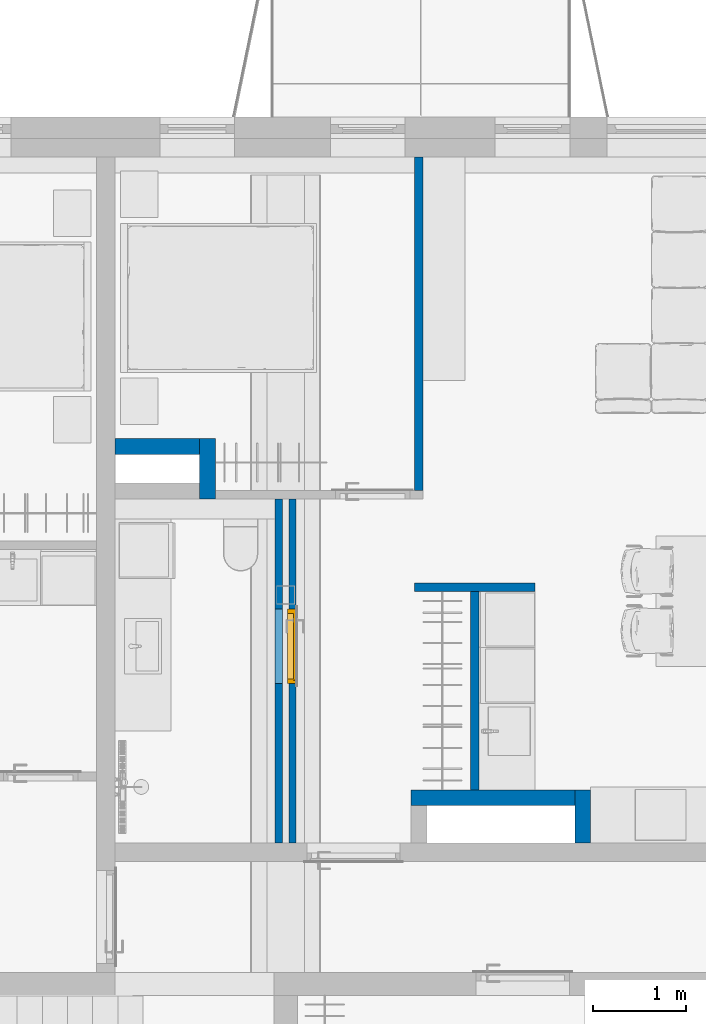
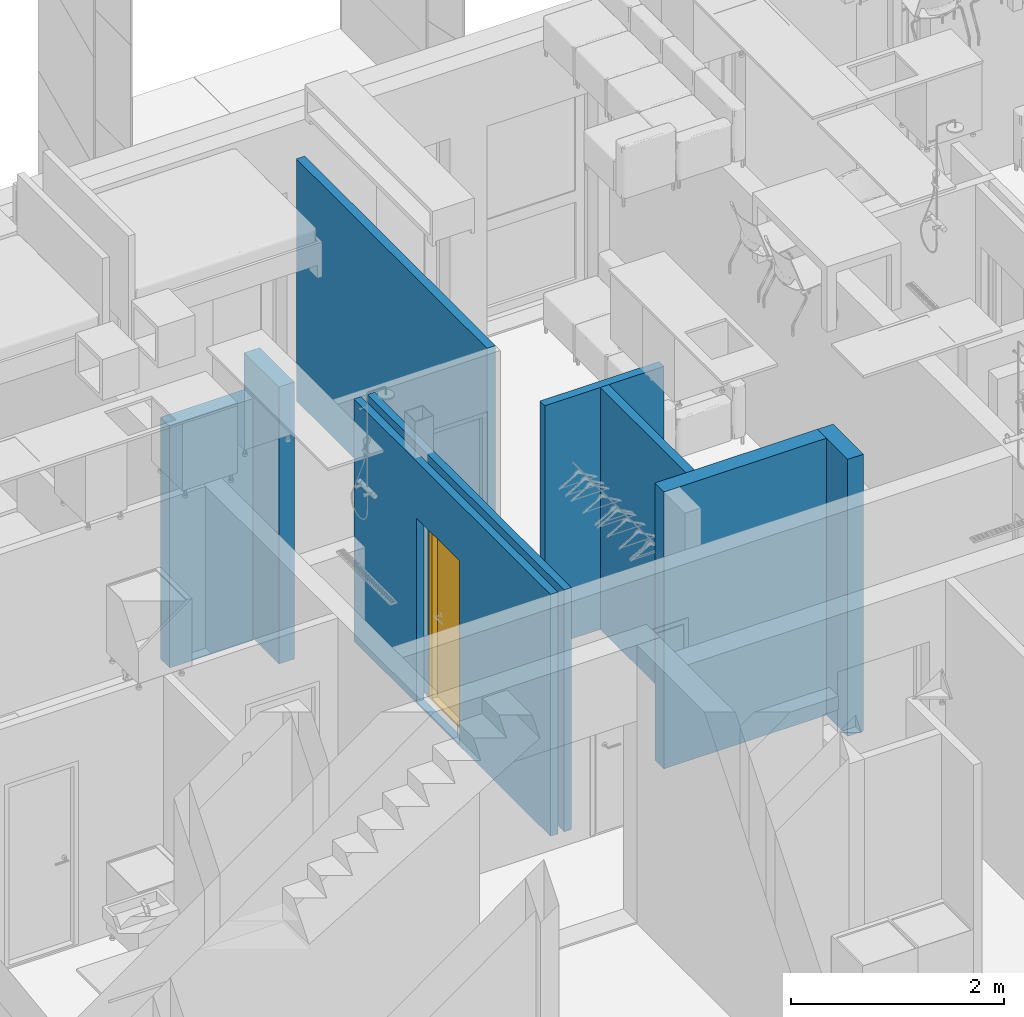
# One storey, part 5 of 125: 9 walls, 1 door, 2 openings.
"""IFC2X3 building model written with IfcOpenShell, lengths in millimetres."""

import ifcopenshell
import ifcopenshell.guid

model = None  # the IFC model being written
_history = None  # IfcOwnerHistory: only IFC2X3 demands one
_inside = {}  # id of a spatial element -> (the spatial element, [elements in it])
_under = {}  # id of a project, library or spatial element -> (it, [spatial elements below it])
_declared = {}  # id of a project -> (the project, [libraries it declares])
_typed = {}  # id of a type object -> (the type object, [elements of that type])
_made_of = {}  # id of a material, layer set ... -> (it, [elements and type objects made of it])


def new_model(schema):
    """Start an empty IFC model of exactly this schema.

    Asked for "IFC4X3", IfcOpenShell would pick the latest addendum, in which some entities
    have other attributes; the version numbers below select the first issue.
    IFC2X3 requires an IfcOwnerHistory on every rooted entity: one is made here for all.
    """
    global model, _history
    if schema == "IFC4X3":
        model = ifcopenshell.file(schema_version=(4, 3, 0, 0))
    else:
        model = ifcopenshell.file(schema=schema)
    _inside.clear()
    _under.clear()
    _declared.clear()
    _typed.clear()
    _made_of.clear()
    _history = None
    if model.schema == "IFC2X3":
        org = make("IfcOrganization", Name="unknown")
        user = make(
            "IfcPersonAndOrganization",
            ThePerson=make("IfcPerson", FamilyName="unknown"),
            TheOrganization=org,
        )
        app = make(
            "IfcApplication",
            ApplicationDeveloper=org,
            Version="unknown",
            ApplicationFullName="unknown",
            ApplicationIdentifier="unknown",
        )
        _history = make(
            "IfcOwnerHistory",
            OwningUser=user,
            OwningApplication=app,
            ChangeAction="ADDED",
            CreationDate=0,
        )
    return model


def make(cls, **values):
    """One entity of the class cls with the attributes given. An attribute that is None is left unset."""
    return model.create_entity(
        cls, **{name: value for name, value in values.items() if value is not None}
    )


def entity(cls, *values):
    """Any entity or typed value of the class cls, its attributes in the order of the schema. None: left unset."""
    e = model.create_entity(cls)
    for i, value in enumerate(values):
        if value is not None:
            e[i] = value
    return e


def rooted(cls, **values):
    """An entity with a GlobalId (a new one), such as an element, a storey or a relation."""
    return make(cls, GlobalId=ifcopenshell.guid.new(), OwnerHistory=_history, **values)


def si_unit(unit_type, name, prefix=None):
    """IfcSIUnit, for example si_unit("LENGTHUNIT", "METRE", prefix="MILLI")."""
    return make("IfcSIUnit", UnitType=unit_type, Prefix=prefix, Name=name)


def converted_unit(unit_type, name, factor, base, dimensions=None, offset=None):
    """IfcConversionBasedUnit, such as the inch: factor (a typed value) times the base unit."""
    return make(
        "IfcConversionBasedUnit"
        if offset is None
        else "IfcConversionBasedUnitWithOffset",
        ConversionOffset=offset,
        Dimensions=None
        if dimensions is None
        else entity("IfcDimensionalExponents", *dimensions),
        UnitType=unit_type,
        Name=name,
        ConversionFactor=make(
            "IfcMeasureWithUnit", ValueComponent=factor, UnitComponent=base
        ),
    )


def assignment(units):
    """IfcUnitAssignment: the units of a project."""
    return None if units is None else make("IfcUnitAssignment", Units=units)


def point(xyz):
    """IfcCartesianPoint."""
    return None if xyz is None else make("IfcCartesianPoint", Coordinates=xyz)


def direction(xyz):
    """IfcDirection."""
    return None if xyz is None else make("IfcDirection", DirectionRatios=xyz)


def frame(location, z_axis=None, x_axis=None):
    """IfcAxis2Placement3D, a coordinate frame: its origin and axes. An axis left out is left unset."""
    return make(
        "IfcAxis2Placement3D",
        Location=point(location),
        Axis=direction(z_axis),
        RefDirection=direction(x_axis),
    )


def frame_2d(location, x_axis=None):
    """IfcAxis2Placement2D, a coordinate frame in the plane: its origin and x axis."""
    return make(
        "IfcAxis2Placement2D", Location=point(location), RefDirection=direction(x_axis)
    )


def origin():
    """The frame at (0, 0, 0) with its axes left unset."""
    return frame((0.0, 0.0, 0.0))


def place(relative_to, where):
    """IfcLocalPlacement: puts the frame where relative to a parent placement (None: the world)."""
    return make(
        "IfcLocalPlacement", PlacementRelTo=relative_to, RelativePlacement=where
    )


def context(
    kind, dimensions, precision=None, world=None, true_north=None, identifier=None
):
    """IfcGeometricRepresentationContext, for example the 3D "Model" context."""
    return make(
        "IfcGeometricRepresentationContext",
        ContextIdentifier=identifier,
        ContextType=kind,
        CoordinateSpaceDimension=dimensions,
        Precision=precision,
        WorldCoordinateSystem=world,
        TrueNorth=true_north,
    )


def subcontext(parent, identifier, kind, view, scale=None):
    """IfcGeometricRepresentationSubContext, for example "Body" below "Model"."""
    return make(
        "IfcGeometricRepresentationSubContext",
        ContextIdentifier=identifier,
        ContextType=kind,
        ParentContext=parent,
        TargetScale=scale,
        TargetView=view,
    )


def project(units=None, contexts=None):
    """IfcProject with its units and contexts."""
    return rooted(
        "IfcProject",
        Name="project",
        RepresentationContexts=contexts,
        UnitsInContext=assignment(units),
    )


def spatial(cls, under=None, at=None, **own):
    """A site, building, storey or space (cls), placed at a placement, below another one or the project."""
    s = rooted(cls, ObjectPlacement=at, **own)
    if under is not None:
        _under.setdefault(under.id(), (under, []))[1].append(s)
    return s


def polyline(points):
    """IfcPolyline through the points."""
    return make("IfcPolyline", Points=[point(p) for p in points])


def profile(cls, at=None, kind="AREA", **sizes):
    """A parametric profile (cls). Its sizes go by their IFC names, for example OverallWidth=200.0."""
    return make(cls, ProfileType=kind, Position=at, **sizes)


def rectangle(**sizes):
    """IfcRectangleProfileDef."""
    return profile("IfcRectangleProfileDef", **sizes)


def extrude(swept, where, along, depth):
    """IfcExtrudedAreaSolid: the profile swept, set in the frame where, extruded along a direction by depth."""
    return make(
        "IfcExtrudedAreaSolid",
        SweptArea=swept,
        Position=where,
        ExtrudedDirection=direction(along),
        Depth=depth,
    )


def clip(a, b, op="DIFFERENCE"):
    """IfcBooleanClippingResult: the solid a cut by the half space b."""
    return make(
        "IfcBooleanClippingResult", Operator=op, FirstOperand=a, SecondOperand=b
    )


def bounded_halfspace(plane, agree, where, boundary):
    """IfcPolygonalBoundedHalfSpace: a half space limited to a polygon's prism."""
    return make(
        "IfcPolygonalBoundedHalfSpace",
        BaseSurface=make("IfcPlane", Position=plane),
        AgreementFlag=agree,
        Position=where,
        PolygonalBoundary=boundary,
    )


def faces_of(points, faces, orient=None, outer=None):
    """IfcFace entities. A face is a list of loops; a loop is a list of indices into points, from 0.

    orient and outer hold one flag for each loop. By default every Orientation is true, the
    first loop of a face is its IfcFaceOuterBound and the others are IfcFaceBound.
    """
    made = []
    for i, loops in enumerate(faces):
        bounds = []
        for j, loop in enumerate(loops):
            is_outer = j == 0 if outer is None else outer[i][j]
            bounds.append(
                make(
                    "IfcFaceOuterBound" if is_outer else "IfcFaceBound",
                    Bound=make("IfcPolyLoop", Polygon=[points[k] for k in loop]),
                    Orientation=True if orient is None else orient[i][j],
                )
            )
        made.append(make("IfcFace", Bounds=bounds))
    return made


def faceted_brep(points, faces, orient=None, outer=None, voids=None):
    """IfcFacetedBrep: a solid bounded by flat faces; with voids (closed shells), ...WithVoids."""
    shared = [point(p) for p in points]
    hull = make("IfcClosedShell", CfsFaces=faces_of(shared, faces, orient, outer))
    if voids is None:
        return make("IfcFacetedBrep", Outer=hull)
    return make(
        "IfcFacetedBrepWithVoids",
        Outer=hull,
        Voids=[
            make(cls, CfsFaces=faces_of(shared, fs, o, b)) for cls, fs, o, b in voids
        ],
    )


def shape(context_of_items, identifier, shape_type, items):
    """IfcShapeRepresentation: the items that make up one representation, for example the "Body"."""
    return make(
        "IfcShapeRepresentation",
        ContextOfItems=context_of_items,
        RepresentationIdentifier=identifier,
        RepresentationType=shape_type,
        Items=items,
    )


def source(mapping_origin, context_of_items, identifier, shape_type, items):
    """IfcRepresentationMap: a shape defined once, which mapped items show again and again."""
    return make(
        "IfcRepresentationMap",
        MappingOrigin=mapping_origin,
        MappedRepresentation=shape(context_of_items, identifier, shape_type, items),
    )


def transform(
    local_origin,
    x_axis=None,
    y_axis=None,
    z_axis=None,
    scale=None,
    scale2=None,
    scale3=None,
    uniform=True,
):
    """IfcCartesianTransformationOperator3D, or its non-uniform kind. x_axis, y_axis, z_axis: its Axis1, 2, 3."""
    if uniform:
        return make(
            "IfcCartesianTransformationOperator3D",
            Axis1=direction(x_axis),
            Axis2=direction(y_axis),
            LocalOrigin=point(local_origin),
            Scale=scale,
            Axis3=direction(z_axis),
        )
    return make(
        "IfcCartesianTransformationOperator3DnonUniform",
        Axis1=direction(x_axis),
        Axis2=direction(y_axis),
        LocalOrigin=point(local_origin),
        Scale=scale,
        Axis3=direction(z_axis),
        Scale2=scale2,
        Scale3=scale3,
    )


def mapped(mapping_source, mapping_target):
    """IfcMappedItem: shows the shape of a source again, moved by a transform."""
    return make(
        "IfcMappedItem", MappingSource=mapping_source, MappingTarget=mapping_target
    )


def material(Name=None, Category=None):
    """IfcMaterial."""
    return make("IfcMaterial", Name=Name, Category=Category)


def layer(
    of_material, thickness, ventilated=None, Name=None, Category=None, Priority=None
):
    """IfcMaterialLayer: one layer of a wall or slab, of a material (None: an air gap)."""
    return make(
        "IfcMaterialLayer",
        Material=of_material,
        LayerThickness=thickness,
        IsVentilated=ventilated,
        Name=Name,
        Category=Category,
        Priority=Priority,
    )


def layer_set(layers, Name=None):
    """IfcMaterialLayerSet."""
    return make("IfcMaterialLayerSet", MaterialLayers=layers, LayerSetName=Name)


def layer_usage(for_layer_set, set_direction, sense, offset, extent=None):
    """IfcMaterialLayerSetUsage: how a layer set lies in its element."""
    return make(
        "IfcMaterialLayerSetUsage",
        ForLayerSet=for_layer_set,
        LayerSetDirection=set_direction,
        DirectionSense=sense,
        OffsetFromReferenceLine=offset,
        ReferenceExtent=extent,
    )


def made_of(thing, what):
    """Note that an element or type object is made of a material, layer set ...; save() writes the relation."""
    if what is not None:
        _made_of.setdefault(what.id(), (what, []))[1].append(thing)
    return thing


def type_object(cls, material=None, **own):
    """A type object (cls), such as IfcWallType, which elements share."""
    return made_of(rooted(cls, **own), material)


def type_shapes(of_type, sources):
    """Give a type object the sources (RepresentationMaps) that its elements show as mapped items."""
    of_type.RepresentationMaps = sources


def element(
    cls,
    number,
    at=None,
    inside=None,
    cuts=None,
    type_object=None,
    material=None,
    context=None,
    identifier="Body",
    shape_type=None,
    held_by="IfcProductDefinitionShape",
    body=None,
    shapes=None,
    **own,
):
    """One element of the class cls, such as IfcWall. Its Tag is "e" and its number.

    at: its placement. inside: the storey or other place that contains it. cuts: it is an
    opening in that element (IfcRelVoidsElement). A single representation is given by context,
    identifier, shape_type and body (its items); several are given by shapes. held_by: the class
    of the entity that holds the representations. save() writes the other relations.
    """
    e = rooted(cls, Tag="e%d" % number, ObjectPlacement=at, **own)
    if body is not None:
        shapes = [shape(context, identifier, shape_type, body)]
    if shapes is not None:
        e.Representation = make(held_by, Representations=shapes)
    if inside is not None:
        _inside.setdefault(inside.id(), (inside, []))[1].append(e)
    if cuts is not None:
        rooted(
            "IfcRelVoidsElement", RelatingBuildingElement=cuts, RelatedOpeningElement=e
        )
    if type_object is not None:
        _typed.setdefault(type_object.id(), (type_object, []))[1].append(e)
    return made_of(e, material)


def fill(opening, filler):
    """IfcRelFillsElement: the door or window that sits in an opening."""
    return rooted(
        "IfcRelFillsElement",
        RelatingOpeningElement=opening,
        RelatedBuildingElement=filler,
    )


def aggregate(whole, parts):
    """IfcRelAggregates: a whole, such as a stair, and the parts it consists of."""
    return rooted("IfcRelAggregates", RelatingObject=whole, RelatedObjects=parts)


def save(model, path):
    """Write the relations noted so far, then the file.

    IfcRelAggregates (storeys below a building ...), IfcRelContainedInSpatialStructure (elements
    in a storey), IfcRelDefinesByType, IfcRelAssociatesMaterial and IfcRelDeclares: one each for
    every whole, place, type object, material and project.
    """
    for whole, parts in _under.values():
        aggregate(whole, parts)
    for where, things in _inside.values():
        rooted(
            "IfcRelContainedInSpatialStructure",
            RelatedElements=things,
            RelatingStructure=where,
        )
    for kind, things in _typed.values():
        rooted("IfcRelDefinesByType", RelatedObjects=things, RelatingType=kind)
    for what, things in _made_of.values():
        rooted("IfcRelAssociatesMaterial", RelatedObjects=things, RelatingMaterial=what)
    for by, libraries in _declared.values():
        rooted("IfcRelDeclares", RelatingContext=by, RelatedDefinitions=libraries)
    model.write(path)


model = new_model("IFC2X3")

# Units and contexts
model_context = context("Model", 3, precision=0.01, world=origin(), true_north=direction((6.123233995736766e-17, 1.0)))
plan_context = context("Plan", 3, precision=0.01, world=origin(), true_north=direction((6.123233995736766e-17, 1.0)))
body_context = subcontext(model_context, "Body", "Model", "MODEL_VIEW")
ifc_project = project(units=[si_unit("LENGTHUNIT", "METRE", prefix="MILLI"), converted_unit("PLANEANGLEUNIT", "DEGREE", entity("IfcPlaneAngleMeasure", 0.017453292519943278), si_unit("PLANEANGLEUNIT", "RADIAN"), dimensions=[0, 0, 0, 0, 0, 0, 0]), si_unit("AREAUNIT", "SQUARE_METRE")], contexts=[model_context, plan_context])

# Site, building, storey
site_placement = place(None, origin())
site = spatial("IfcSite", under=ifc_project, at=site_placement, Name="Default", CompositionType="ELEMENT")
building_placement = place(site_placement, origin())
building = spatial("IfcBuilding", under=site, at=building_placement, CompositionType="ELEMENT")
storey_placement = place(building_placement, frame((0.0, 0.0, 3125.0)))
storey = spatial("IfcBuildingStorey", under=building, at=storey_placement, Name="2K", CompositionType="ELEMENT", Elevation=3125.0)

# Walls
ifc_material_1 = material(Name="_K. Ehitusplaat. Kipsplaat. Erikõva")
ifc_layer_1 = layer(ifc_material_1, 13.000000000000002)
ifc_material_2 = material(Name="_K. Soojustus. Mineraalvill")
ifc_layer_2 = layer(ifc_material_2, 66.0)
ifc_layer_3 = layer(ifc_material_1, 13.000000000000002)
ifc_layer_set_1 = layer_set([ifc_layer_1, ifc_layer_2, ifc_layer_3], Name="Basic Wall:SS-401")
ifc_layer_usage_1 = layer_usage(ifc_layer_set_1, "AXIS2", "NEGATIVE", 46.00000000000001)
wall_type_1 = type_object("IfcWallType", Name="Basic Wall:SS-401", PredefinedType="STANDARD", material=ifc_layer_set_1)
wall_1_placement = place(storey_placement, frame((7204.0, 8610.0, -20.0), z_axis=(0.0, 0.0, 1.0), x_axis=(0.0, 1.0, 0.0)))
element("IfcWallStandardCase", 1, at=wall_1_placement, inside=storey, type_object=wall_type_1, material=ifc_layer_usage_1, Name="Basic Wall:SS-401", ObjectType="Basic Wall:SS-401", context=body_context, shape_type="SweptSolid", body=[
    extrude(rectangle(XDim=2127.999999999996, YDim=92.00000000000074, at=frame_2d((1063.999999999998, -3.872457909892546e-13), x_axis=(-1.0, 0.0))), origin(), (0.0, 0.0, 1.0), 2769.9999999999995),
])
ifc_layer_usage_2 = layer_usage(ifc_layer_set_1, "AXIS2", "NEGATIVE", 46.00000000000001)
wall_2_placement = place(storey_placement, frame((6604.0, 11822.0, -20.0), z_axis=(0.0, 0.0, 1.0), x_axis=(0.0, 1.0, 0.0)))
element("IfcWallStandardCase", 2, at=wall_2_placement, inside=storey, type_object=wall_type_1, material=ifc_layer_usage_2, Name="Basic Wall:SS-401", ObjectType="Basic Wall:SS-401", context=body_context, shape_type="SweptSolid", body=[
    extrude(rectangle(XDim=3577.9999999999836, YDim=92.00000000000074, at=frame_2d((1788.9999999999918, 2.8066438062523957e-13), x_axis=(-1.0, 0.0))), origin(), (0.0, 0.0, 1.0), 2769.9999999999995),
])
ifc_layer_usage_3 = layer_usage(ifc_layer_set_1, "AXIS2", "NEGATIVE", 46.00000000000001)
wall_3_placement = place(storey_placement, frame((6558.0, 10784.0, -20.0)))
element("IfcWallStandardCase", 3, at=wall_3_placement, inside=storey, type_object=wall_type_1, material=ifc_layer_usage_3, Name="Basic Wall:SS-401", ObjectType="Basic Wall:SS-401", context=body_context, shape_type="SweptSolid", body=[
    extrude(rectangle(XDim=1292.0000000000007, YDim=92.00000000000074, at=frame_2d((646.0000000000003, 9.237055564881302e-14), x_axis=(-1.0, 0.0))), origin(), (0.0, 0.0, 1.0), 2769.9999999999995),
])

# Wall, opening, door
ifc_layer_4 = layer(ifc_material_1, 13.000000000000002)
ifc_layer_5 = layer(ifc_material_2, 66.0)
ifc_layer_set_2 = layer_set([ifc_layer_4, ifc_layer_5], Name="Basic Wall:SS-402")
ifc_layer_usage_4 = layer_usage(ifc_layer_set_2, "AXIS2", "NEGATIVE", 39.50000000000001)
wall_type_2 = type_object("IfcWallType", Name="Basic Wall:SS-402", PredefinedType="STANDARD", material=ifc_layer_set_2)
wall_4_placement = place(storey_placement, frame((5248.499999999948, 11730.0, -20.0), z_axis=(0.0, 0.0, 1.0), x_axis=(0.0, -1.0, 0.0)))
wall_4 = element("IfcWallStandardCase", 4, at=wall_4_placement, inside=storey, type_object=wall_type_2, material=ifc_layer_usage_4, Name="Basic Wall:SS-402", ObjectType="Basic Wall:SS-402", context=body_context, shape_type="SweptSolid", body=[
    extrude(rectangle(XDim=3690.0000000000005, YDim=79.00000000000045, at=frame_2d((1845.0000000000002, -5.613287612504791e-13), x_axis=(-1.0, 0.0))), origin(), (0.0, 0.0, 1.0), 2769.9999999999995),
])
opening_1_placement = place(wall_4_placement, frame((11730.0, -5248.499999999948, 20.0), z_axis=(0.0, 0.0, 1.0), x_axis=(0.0, 1.0, 0.0)))
opening_1 = element("IfcOpeningElement", 5, at=opening_1_placement, cuts=wall_4, Name="Basic Wall:SS-402", ObjectType="Opening", context=body_context, shape_type="Brep", body=[
    faceted_brep([(4196.0, 9750.0, 2100.0), (4196.0, 10550.0, 2100.0), (4196.0, 10550.0, 0.0), (4196.0, 9750.0, 0.0), (6288.0, 9750.0, 0.0), (6288.0, 9750.0, 2100.0), (6288.0, 10550.0, 0.0), (6288.0, 10550.0, 2100.0)], [[[0, 1, 2, 3]], [[3, 4, 5, 0]], [[2, 6, 4, 3]], [[1, 7, 6, 2]], [[5, 7, 1, 0]], [[7, 5, 4, 6]]]),
])
ifc_material_3 = material(Name="_K. Puit. Peitsitud ja lakitud")
door_style = type_object("IfcDoorStyle", Name="HR_Generic_Hinged_Single:Default. Manteluks lävepakuga. 800 x 2100 mm. Left", ConstructionType="NOTDEFINED", OperationType="NOTDEFINED", ParameterTakesPrecedence=False, Sizeable=False, material=ifc_material_3)
shared_shape = source(origin(), body_context, "Body", "Brep", [
    faceted_brep([(765.0, -1000.0, 20.0), (35.0, -1000.0, 20.0), (35.0, -1030.0, 20.0), (50.0, -1030.0, 20.0), (50.0, -1092.0, 20.0), (750.0, -1092.0, 20.0), (750.0, -1030.0, 20.0), (765.0, -1030.0, 20.0), (35.0, -1000.0, 0.0), (765.0, -1000.0, 0.0), (765.0, -1030.0, 0.0), (750.0, -1030.0, 0.0), (750.0, -1092.0, 0.0), (50.0, -1092.0, 0.0), (50.0, -1030.0, 0.0), (35.0, -1030.0, 0.0)], [[[0, 1, 2, 3, 4, 5, 6, 7]], [[8, 9, 10, 11, 12, 13, 14, 15]], [[1, 0, 9, 8]], [[5, 4, 13, 12]], [[2, 1, 8, 15]], [[0, 7, 10, 9]], [[3, 14, 13, 4]], [[14, 3, 2, 15]], [[6, 11, 10, 7]], [[11, 6, 5, 12]]]),
    faceted_brep([(37.0, -1030.0, 2060.0), (37.0, -1030.0, 25.0), (763.0, -1030.0, 25.0), (763.0, -1030.0, 2060.0), (27.0, -990.0, 25.0), (27.0, -990.0, 2070.0), (773.0, -990.0, 2070.0), (773.0, -990.0, 25.0), (37.0, -1000.0, 2060.0), (37.0, -1000.0, 25.0), (27.0, -1000.0, 25.0), (773.0, -1000.0, 25.0), (763.0, -1000.0, 25.0), (763.0, -1000.0, 2060.0), (27.0, -1000.0, 2070.0), (773.0, -1000.0, 2070.0)], [[[0, 1, 2, 3]], [[4, 5, 6, 7]], [[1, 0, 8, 9]], [[2, 1, 9, 10, 4, 7, 11, 12]], [[3, 2, 12, 13]], [[0, 3, 13, 8]], [[14, 10, 9, 8, 13, 12, 11, 15]], [[6, 5, 14, 15]], [[7, 6, 15, 11]], [[5, 4, 10, 14]]]),
    faceted_brep([(800.0, -1092.0, 0.0), (750.0, -1092.0, 0.0), (750.0, -1030.0, 0.0), (765.0, -1030.0, 0.0), (765.0, -1000.0, 0.0), (800.0, -1000.0, 0.0), (800.0, -1092.0, 2100.0), (0.0, -1092.0, 2100.0), (0.0, -1092.0, 0.0), (50.0, -1092.0, 0.0), (50.0, -1092.0, 2050.0), (750.0, -1092.0, 2050.0), (750.0, -1030.0, 2050.0), (35.0, -1030.0, 2065.0), (765.0, -1030.0, 2065.0), (50.0, -1030.0, 2050.0), (50.0, -1030.0, 0.0), (35.0, -1030.0, 0.0), (765.0, -1000.0, 2065.0), (0.0, -1000.0, 0.0), (0.0, -1000.0, 2100.0), (800.0, -1000.0, 2100.0), (35.0, -1000.0, 2065.0), (35.0, -1000.0, 0.0)], [[[0, 1, 2, 3, 4, 5]], [[1, 0, 6, 7, 8, 9, 10, 11]], [[1, 11, 12, 2]], [[13, 14, 3, 2, 12, 15, 16, 17]], [[3, 14, 18, 4]], [[19, 20, 21, 5, 4, 18, 22, 23]], [[0, 5, 21, 6]], [[8, 19, 23, 17, 16, 9]], [[19, 8, 7, 20]], [[13, 17, 23, 22]], [[10, 9, 16, 15]], [[7, 6, 21, 20]], [[11, 10, 15, 12]], [[14, 13, 22, 18]]]),
])
type_shapes(door_style, [shared_shape])
door_placement = place(opening_1_placement, frame((6288.0, 10550.0, 0.0), z_axis=(0.0, 0.0, 1.0), x_axis=(0.0, -1.0, 0.0)))
door = element("IfcDoor", 6, at=door_placement, inside=storey, type_object=door_style, material=ifc_material_3, Name="HR_Generic_Hinged_Single:Default. Manteluks lävepakuga. 800 x 2100 mm. Left", ObjectType="HR_Generic_Hinged_Single:Default. Manteluks lävepakuga. 800 x 2100 mm. Left", OverallHeight=2130.000000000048, OverallWidth=860.0000000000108, context=body_context, shape_type="MappedRepresentation", body=[
    mapped(shared_shape, transform((0.0, 0.0, 0.0), scale=1.0)),
])
fill(opening_1, door)

# Wall, opening
ifc_layer_usage_5 = layer_usage(ifc_layer_set_2, "AXIS2", "POSITIVE", -39.50000000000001)
wall_5_placement = place(storey_placement, frame((5101.499999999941, 11730.0, -20.0), z_axis=(0.0, 0.0, 1.0), x_axis=(0.0, -1.0, 0.0)))
wall_5 = element("IfcWallStandardCase", 7, at=wall_5_placement, inside=storey, type_object=wall_type_2, material=ifc_layer_usage_5, Name="Basic Wall:SS-402", ObjectType="Basic Wall:SS-402", context=body_context, shape_type="SweptSolid", body=[
    extrude(rectangle(XDim=3689.999999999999, YDim=79.00000000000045, at=frame_2d((1844.9999999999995, -3.232969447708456e-13), x_axis=(-1.0, 0.0))), origin(), (0.0, 0.0, 1.0), 2769.9999999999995),
])
opening_2_placement = place(wall_5_placement, frame((11730.0, -5101.5000000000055, 20.0)))
element("IfcOpeningElement", 8, at=opening_2_placement, cuts=wall_5, Name="Basic Wall:SS-402", ObjectType="Opening", context=body_context, shape_type="Brep", body=[
    faceted_brep([(-9750.0, 4196.0, 2100.0), (-10550.0, 4196.0, 2100.0), (-10550.0, 4196.0, 0.0), (-9750.0, 4196.0, 0.0), (-9750.0, 6288.0, 0.0), (-9750.0, 6288.0, 2100.0), (-10550.0, 6288.0, 0.0), (-10550.0, 6288.0, 2100.0)], [[[0, 1, 2, 3]], [[3, 4, 5, 0]], [[2, 6, 4, 3]], [[1, 7, 6, 2]], [[5, 7, 1, 0]], [[7, 5, 4, 6]]]),
])

# Walls
ifc_material_4 = material(Name="_K. Väisviimistlus. Krohv. Valge")
ifc_layer_6 = layer(ifc_material_4, 10.0)
ifc_material_5 = material(Name="_K. Müüritis. Väikeplokk. Kergkruusplokk")
ifc_layer_7 = layer(ifc_material_5, 150.0)
ifc_layer_8 = layer(ifc_material_4, 10.0)
ifc_layer_set_3 = layer_set([ifc_layer_6, ifc_layer_7, ifc_layer_8], Name="Basic Wall:SS-03. Šahti sein")
ifc_layer_usage_6 = layer_usage(ifc_layer_set_3, "AXIS2", "NEGATIVE", 85.00000000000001)
wall_type_3 = type_object("IfcWallType", Name="Basic Wall:SS-03. Šahti sein", PredefinedType="STANDARD", material=ifc_layer_set_3)
wall_6_placement = place(storey_placement, frame((6520.0, 8525.0, 0.0)))
element("IfcWallStandardCase", 9, at=wall_6_placement, inside=storey, type_object=wall_type_3, material=ifc_layer_usage_6, Name="Basic Wall:SS-03. Šahti sein", ObjectType="Basic Wall:SS-03. Šahti sein", context=body_context, shape_type="SweptSolid", body=[
    extrude(rectangle(XDim=1759.999999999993, YDim=170.00000000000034, at=frame_2d((879.9999999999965, 1.2789769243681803e-13), x_axis=(-1.0, 0.0))), origin(), (0.0, 0.0, 1.0), 3169.9999999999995),
])
ifc_layer_usage_7 = layer_usage(ifc_layer_set_3, "AXIS2", "NEGATIVE", 85.00000000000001)
wall_7_placement = place(storey_placement, frame((8365.0, 8610.0, 0.0), z_axis=(0.0, 0.0, 1.0), x_axis=(0.0, -1.0, 0.0)))
element("IfcWallStandardCase", 10, at=wall_7_placement, inside=storey, type_object=wall_type_3, material=ifc_layer_usage_7, Name="Basic Wall:SS-03. Šahti sein", ObjectType="Basic Wall:SS-03. Šahti sein", context=body_context, shape_type="SweptSolid", body=[
    extrude(rectangle(XDim=570.0000000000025, YDim=170.00000000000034, at=frame_2d((285.00000000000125, 3.907985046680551e-13), x_axis=(-1.0, 0.0))), origin(), (0.0, 0.0, 1.0), 3169.9999999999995),
])
ifc_layer_usage_8 = layer_usage(ifc_layer_set_3, "AXIS2", "NEGATIVE", 85.00000000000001)
wall_8_placement = place(storey_placement, frame((3344.993534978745, 12295.0, -20.00019836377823)))
element("IfcWallStandardCase", 11, at=wall_8_placement, inside=storey, type_object=wall_type_3, material=ifc_layer_usage_8, Name="Basic Wall:SS-03. Šahti sein", ObjectType="Basic Wall:SS-03. Šahti sein", context=body_context, shape_type="Clipping", body=[
    clip(extrude(rectangle(XDim=905.0064650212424, YDim=170.00000000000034, at=frame_2d((452.5032325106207, -7.105427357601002e-13), x_axis=(-1.0, 0.0))), origin(), (0.0, 0.0, 1.0), 2770.000198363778), bounded_halfspace(frame((905.0064650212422, -85.0, 0.0), z_axis=(0.0, 0.0, 1.0), x_axis=(0.0, 1.0, 0.0)), True, frame((905.0064650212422, -85.0, 0.0), z_axis=(0.0, 0.0, 1.0), x_axis=(0.0, 1.0, 0.0)), polyline([(0.0, 0.0), (170.0, 0.0), (170.0, 905.0064650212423), (0.0, 905.0064650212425), (0.0, 900.0), (0.0, 0.0)]))),
])
ifc_layer_usage_9 = layer_usage(ifc_layer_set_3, "AXIS2", "NEGATIVE", 85.00000000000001)
wall_9_placement = place(storey_placement, frame((4335.0, 12380.0, 0.0), z_axis=(0.0, 0.0, 1.0), x_axis=(0.0, -1.0, 0.0)))
element("IfcWallStandardCase", 12, at=wall_9_placement, inside=storey, type_object=wall_type_3, material=ifc_layer_usage_9, Name="Basic Wall:SS-03. Šahti sein", ObjectType="Basic Wall:SS-03. Šahti sein", context=body_context, shape_type="SweptSolid", body=[
    extrude(rectangle(XDim=650.000000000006, YDim=170.00000000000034, at=frame_2d((325.000000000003, -9.947598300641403e-14), x_axis=(-1.0, 0.0))), origin(), (0.0, 0.0, 1.0), 3169.9999999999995),
])

save(model, "model.ifc")
